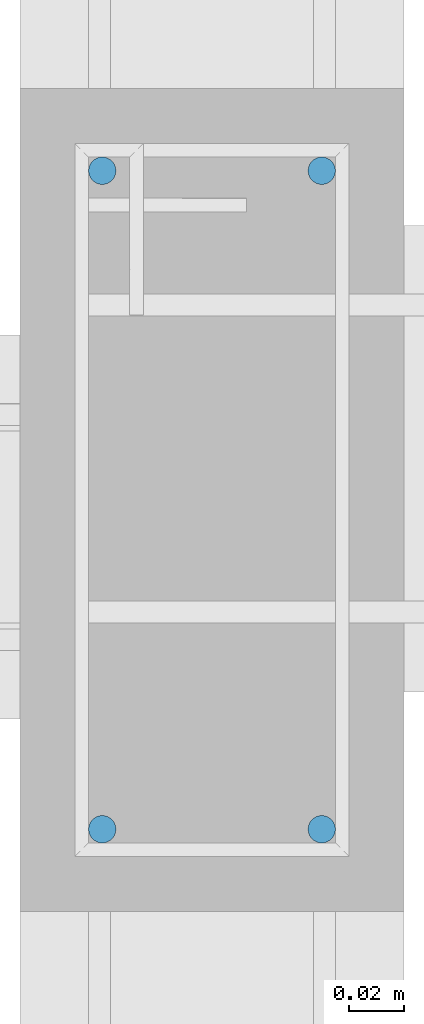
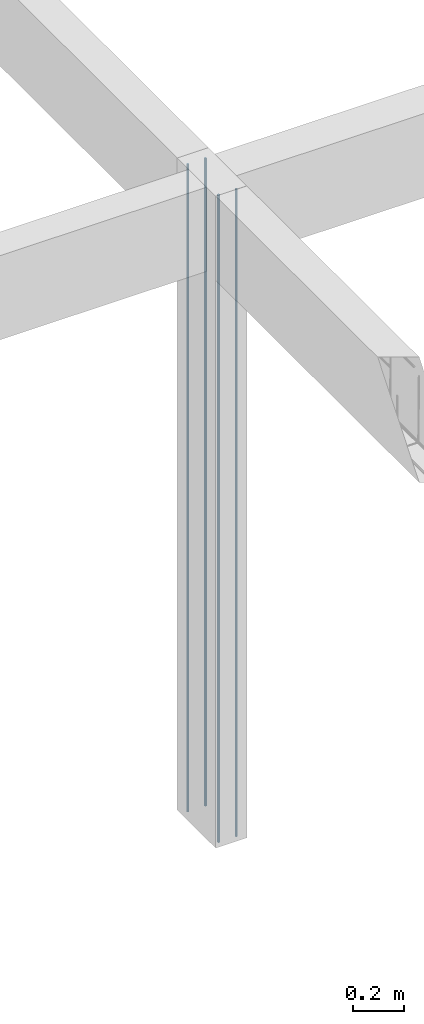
# One storey, part 25 of 236: 4 reinforcing bars.
"""IFC4 building model written with IfcOpenShell, lengths in centimetres."""

from ifc_helpers import new_model, entity, si_unit, derived_unit, frame, origin_with_axes, place, context, project, spatial, element, save


model = new_model("IFC4")

# Units and contexts
model_context = context("Model", 3, precision=1e-05, world=origin_with_axes(), identifier="Body")
ifc_project = project(units=[si_unit("LENGTHUNIT", "METRE", prefix="CENTI"), si_unit("VOLUMEUNIT", "CUBIC_METRE"), si_unit("AREAUNIT", "SQUARE_METRE"), si_unit("POWERUNIT", "WATT"), si_unit("LUMINOUSFLUXUNIT", "LUMEN"), si_unit("ELECTRICCURRENTUNIT", "AMPERE"), si_unit("PRESSUREUNIT", "PASCAL", prefix="KILO"), si_unit("MASSUNIT", "GRAM", prefix="KILO"), si_unit("PLANEANGLEUNIT", "RADIAN"), derived_unit("VOLUMETRICFLOWRATEUNIT", [(si_unit("LENGTHUNIT", "METRE"), 3), (si_unit("TIMEUNIT", "SECOND"), -1)])], contexts=[model_context])

# Site, building, storey
site_placement = place(None, frame((-4000.0, 0.0, 0.0), z_axis=(0.0, 0.0, 1.0), x_axis=(1.0, 0.0, 0.0)))
site = spatial("IfcSite", under=ifc_project, at=site_placement, Name="PADRÃO")
building_placement = place(site_placement, frame((0.0, 0.0, -14.0)))
building = spatial("IfcBuilding", under=site, at=building_placement, Name="CRECHE PRÉ-ESCOLA TIPO 2")
placement_1 = place(building_placement, origin_with_axes())
placement_2 = place(placement_1, frame((0.0, 0.0, 30.0), z_axis=(0.0, 0.0, 1.0), x_axis=(1.0, 0.0, 0.0)))
storey_placement = place(placement_2, frame((0.0, 0.0, 310.0), z_axis=(0.0, 0.0, 1.0), x_axis=(1.0, 0.0, 0.0)))
storey = spatial("IfcBuildingStorey", under=building, at=storey_placement, Name="TERREO", CompositionType="ELEMENT", Elevation=326.0)

# Reinforcing bars
for number, where, z_axis, x_axis, name in (
    (1, (1114.72, 1040.5, -2.0), (0.0, 0.0, 1.0), (1.0, 0.0, 0.0), "P119 - Longitudinal"),
    (2, (1114.72, 1016.5, -2.0), (0.0, 0.0, 1.0), (1.0, 0.0, 0.0), "P119 - Longitudinal"),
    (3, (1122.72, 1040.5, -2.0), (0.0, 0.0, 1.0), (1.0, 0.0, 0.0), "P119 - Longitudinal"),
    (4, (1122.72, 1016.5, -2.0), (0.0, 0.0, 1.0), (1.0, 0.0, 0.0), "P119 - Longitudinal"),
):
    element("IfcReinforcingBar", number, at=place(storey_placement, frame(where, z_axis=z_axis, x_axis=x_axis)), inside=storey, Name=name, BarLength=0.0, CrossSectionArea=7.853981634e-05, NominalDiameter=1.0, PredefinedType="MAIN", context=model_context, shape_type="AdvancedSweptSolid", body=[
        entity("IfcSweptDiskSolid", entity("IfcCompositeCurve", [entity("IfcCompositeCurveSegment", "CONTINUOUS", True, entity("IfcPolyline", [entity("IfcCartesianPoint", [0.0, 0.0, -308.0]), entity("IfcCartesianPoint", [0.0, 0.0, 0.0])]))], False), 0.5),
    ])

save(model, "model.ifc")
